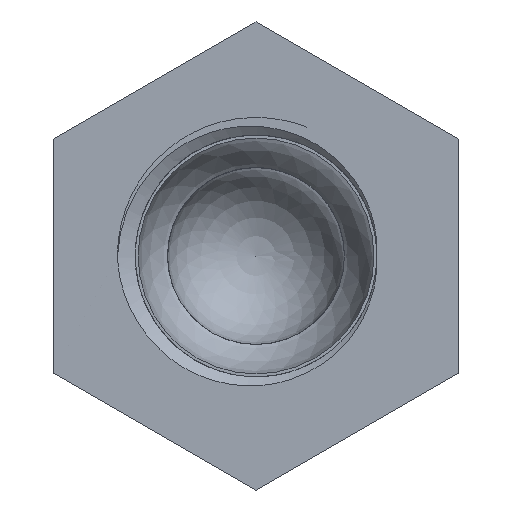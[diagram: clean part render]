
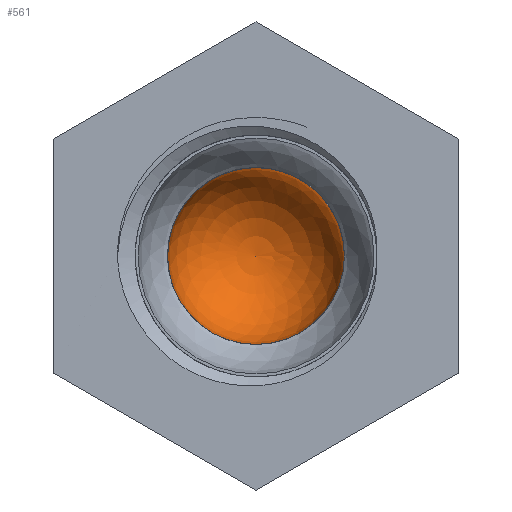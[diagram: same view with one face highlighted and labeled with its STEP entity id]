
A CAD part, left-side view. The second image highlights one B-rep face of the part: STEP entity #561.
In plain terms, the highlighted spherical face has radius 3.81 mm.
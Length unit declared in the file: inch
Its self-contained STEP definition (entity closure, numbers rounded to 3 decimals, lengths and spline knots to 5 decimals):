
#18=SPHERICAL_SURFACE('',#621,0.15);
#65=FACE_OUTER_BOUND('',#99,.T.);
#99=EDGE_LOOP('',(#468,#469,#470));
#119=CIRCLE('',#622,0.15);
#120=CIRCLE('',#623,0.15);
#263=VERTEX_POINT('',#3893);
#264=VERTEX_POINT('',#3895);
#339=EDGE_CURVE('',#263,#263,#119,.T.);
#340=EDGE_CURVE('',#264,#263,#120,.T.);
#468=ORIENTED_EDGE('',*,*,#339,.F.);
#469=ORIENTED_EDGE('',*,*,#340,.F.);
#470=ORIENTED_EDGE('',*,*,#340,.T.);
#561=ADVANCED_FACE('',(#65),#18,.F.);
#621=AXIS2_PLACEMENT_3D('',#3892,#726,#727);
#622=AXIS2_PLACEMENT_3D('',#3894,#728,#729);
#623=AXIS2_PLACEMENT_3D('',#3896,#730,#731);
#726=DIRECTION('center_axis',(1.,0.,0.));
#727=DIRECTION('ref_axis',(0.,1.,0.));
#728=DIRECTION('center_axis',(1.,0.,0.));
#729=DIRECTION('ref_axis',(0.,0.814,-0.581));
#730=DIRECTION('center_axis',(0.,0.,
-1.));
#731=DIRECTION('ref_axis',(0.,-1.,0.));
#3892=CARTESIAN_POINT('Origin',(5.56667,2.1065,1.51301));
#3893=CARTESIAN_POINT('',(5.56667,1.9565,1.51301));
#3894=CARTESIAN_POINT('Origin',(5.56667,2.1065,1.51301));
#3895=CARTESIAN_POINT('',(5.71667,2.1065,1.51301));
#3896=CARTESIAN_POINT('Origin',(5.56667,2.1065,1.51301));
